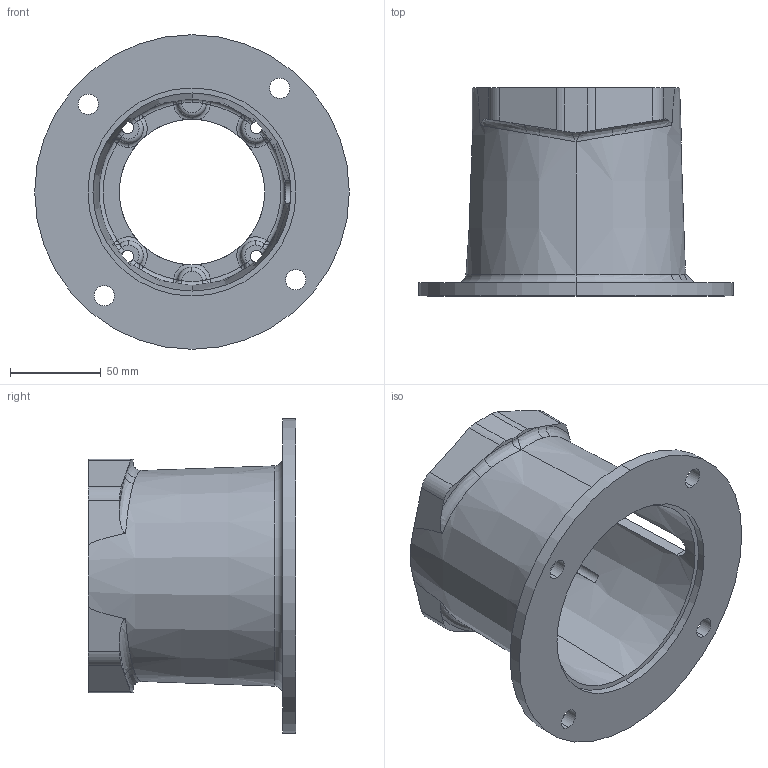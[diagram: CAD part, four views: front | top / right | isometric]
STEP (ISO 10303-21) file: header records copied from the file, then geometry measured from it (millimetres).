
FILE_DESCRIPTION (( 'STEP AP203' ), '1' );
FILE_NAME ('M0564580MS.STEP', '2015-01-19T15:36:28', ( '' ), ( '' ), 'SwSTEP 2.0', 'SolidWorks 2014', '' );
FILE_SCHEMA (( 'CONFIG_CONTROL_DESIGN' ));
Length unit declared in the file: inch
Products named in the file (1): M0564580MS
Bounding box: 172.97 x 114.3 x 172.97 mm (x, y, z)
Volume: 408439.2 mm3; surface area: 118033.3 mm2
Topology: 1 solids, 1 shells, 192 faces, 502 edges, 295 vertices
Faces by surface type: torus 46, bspline 38, plane 36, cylinder 34, sphere 24, cone 14
Entity records: 8004 total; most frequent: CARTESIAN_POINT 3467, ORIENTED_EDGE 976, DIRECTION 946, EDGE_CURVE 488, AXIS2_PLACEMENT_3D 433, VERTEX_POINT 295, CIRCLE 278, EDGE_LOOP 209
